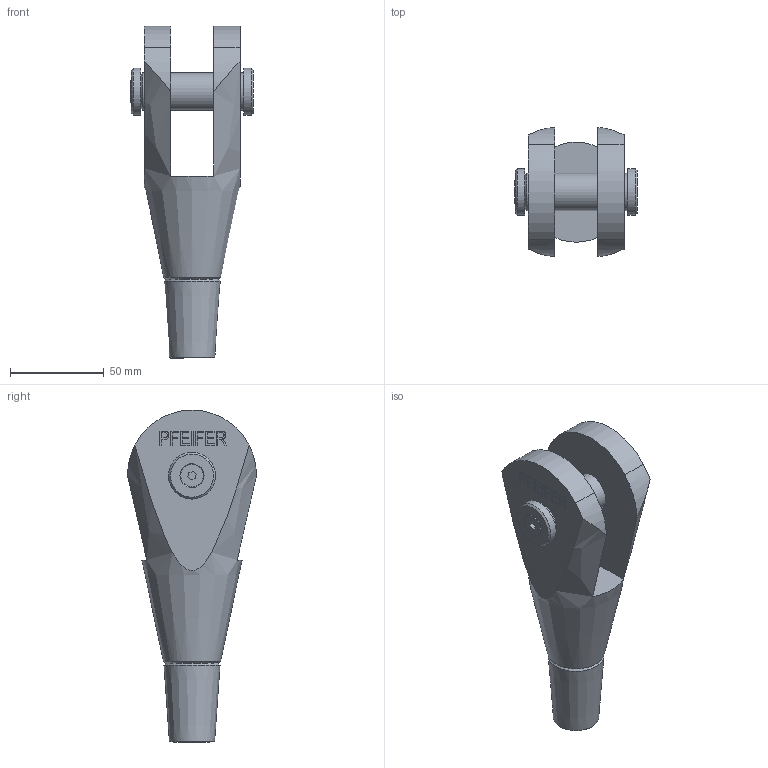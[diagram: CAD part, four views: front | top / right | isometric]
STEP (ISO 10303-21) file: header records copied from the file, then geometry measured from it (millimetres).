
FILE_DESCRIPTION(/* description */ (''),/* implementation_level */ '2;1');
FILE_NAME(/* name */ 'C:\Vault_WS\Designs\520-020-GAK.stp',/* time_stamp */ '2020-06-25T07:46:20+02:00',/* author */ ('schwarz'),/* organization */ (''),/* preprocessor_version */ 'ST-DEVELOPER v16.1',/* originating_system */ 'Autodesk Inventor 2016',/* authorisation */ '');
FILE_SCHEMA (('AUTOMOTIVE_DESIGN { 1 0 10303 214 3 1 1 }'));
Length unit declared in the file: centimetre
Products named in the file (1): 520-020-GAK-KMU-Kunde
Bounding box: 65.22 x 68.77 x 177 mm (x, y, z)
Volume: 215473.9 mm3; surface area: 43611.9 mm2
Topology: 2 solids, 3 shells, 186 faces, 480 edges, 319 vertices
Faces by surface type: plane 137, bspline 21, cylinder 16, cone 11, torus 1
Full cylindrical faces by diameter (mm): 4.917 x1, 6 x1, 6.8 x1, 12 x1, 20 x1, 21 x1, 22 x2, 25 x2
Entity records: 5793 total; most frequent: CARTESIAN_POINT 1271, ORIENTED_EDGE 900, DIRECTION 776, EDGE_CURVE 450, LINE 354, VECTOR 354, VERTEX_POINT 310, EDGE_LOOP 230
